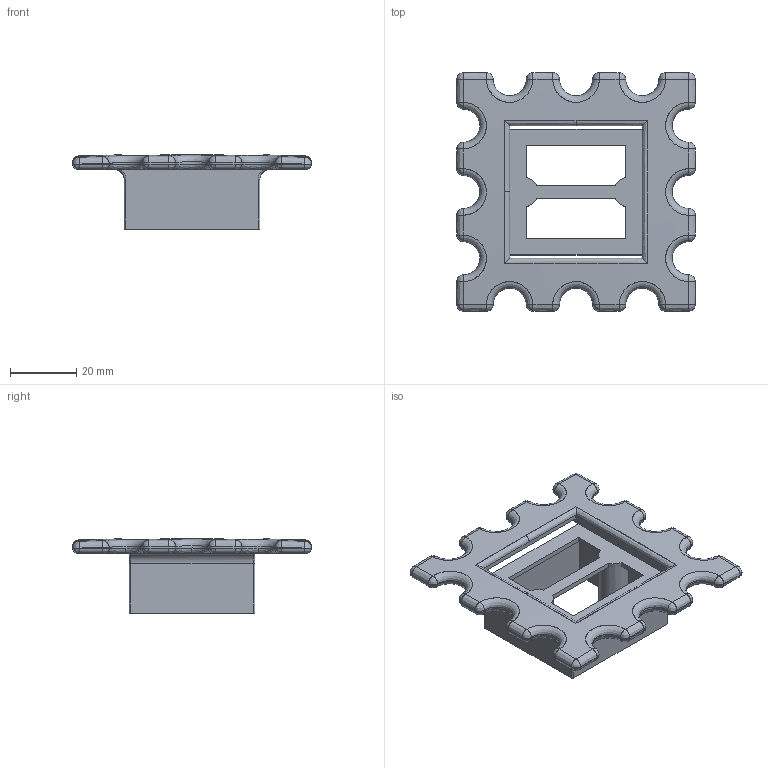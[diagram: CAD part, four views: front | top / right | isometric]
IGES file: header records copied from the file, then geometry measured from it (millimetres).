
Start section: C
Global section: file name: 8207-72.igs; native system: By Siemens PLM Incorporated; preprocessor: XPlus GENERIC/IGES 16.0.42; author: Author; organization: Title; date: 20231115.134253; units: millimetre
Bounding box: 72 x 72 x 22.41 mm (x, y, z)
Surface area: 15080.9 mm2 (no closed solid volume)
Topology: 0 solids, 0 shells, 234 faces, 1094 edges, 1094 vertices
Faces by surface type: bspline 234
